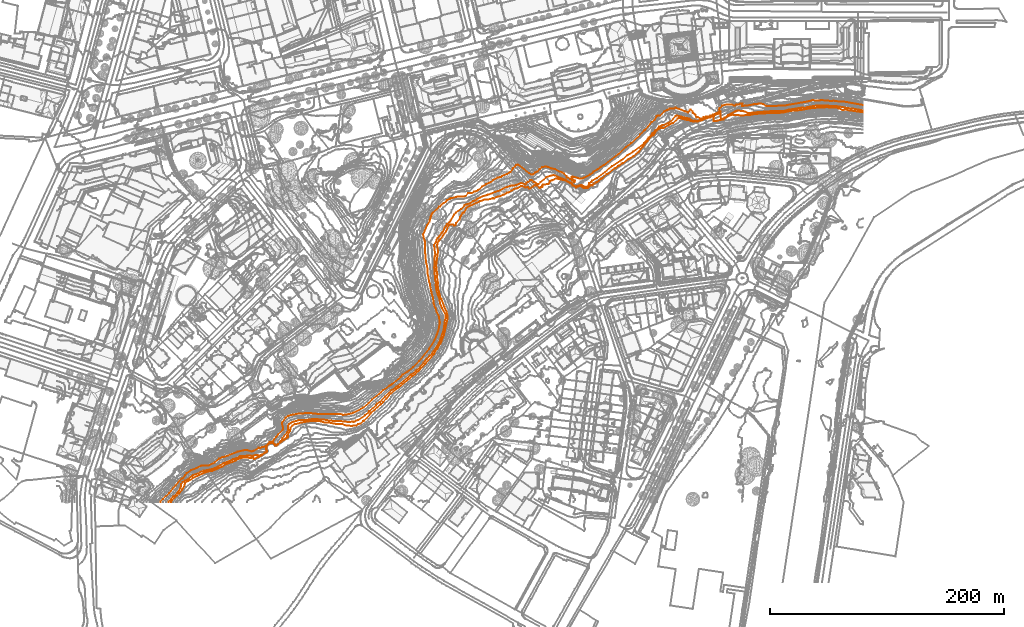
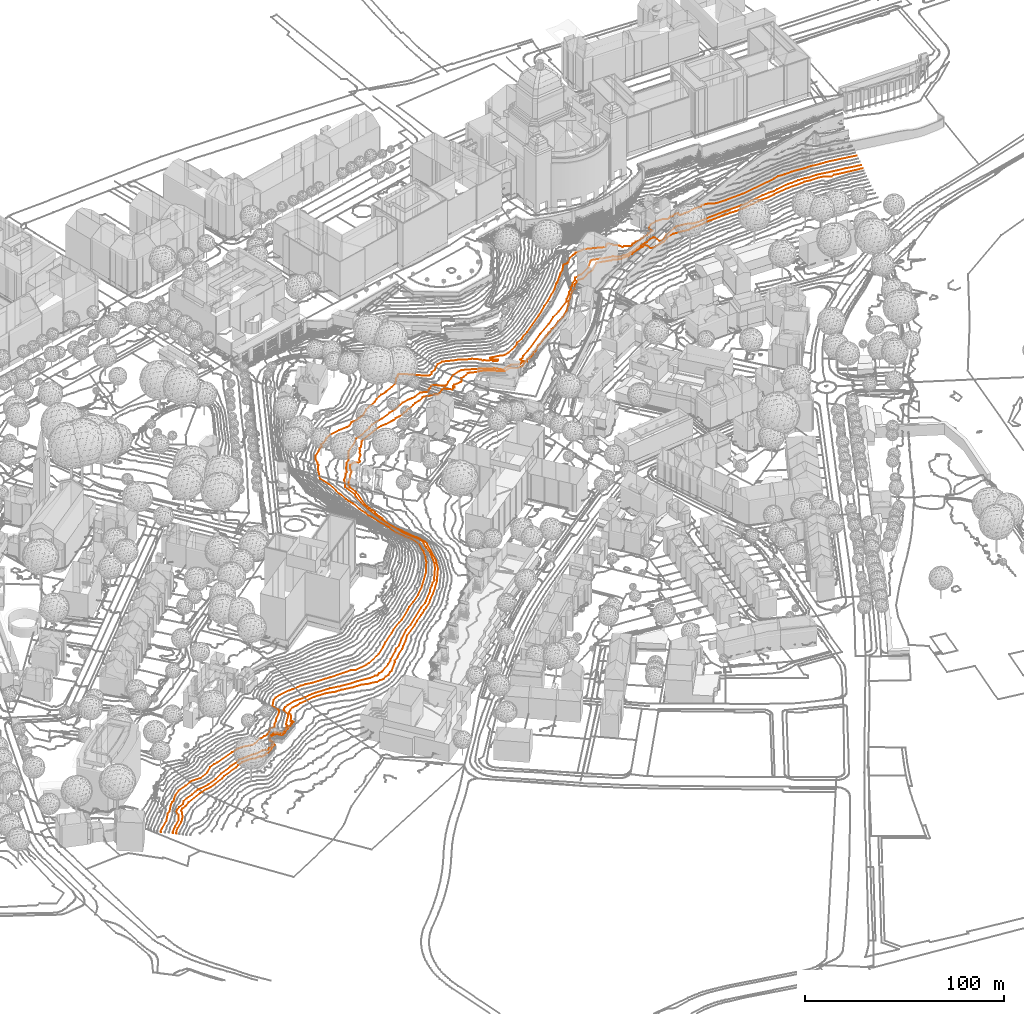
# Not in any storey, part 149 of 477: 3 geographic elements.
"""IFC4 model written with IfcOpenShell, lengths in metres."""

from ifc_helpers import new_model, entity, si_unit, frame, origin_with_axes, place, context, subcontext, project, spatial, element, save


model = new_model("IFC4")

# Units and contexts
model_context = context("Model", 3, precision=1e-05, world=origin_with_axes())
body_context = subcontext(model_context, "Body", "Model", "MODEL_VIEW")
ifc_project = project(units=[si_unit("AREAUNIT", "SQUARE_METRE"), si_unit("LENGTHUNIT", "METRE")], contexts=[model_context])

# Sites
site_1_placement = place(None, origin_with_axes())
site_1 = spatial("IfcSite", under=ifc_project, at=site_1_placement, Name="Topoexport Site")
site_2_placement = place(site_1_placement, origin_with_axes())
site_2 = spatial("IfcSite", under=site_1, at=site_2_placement, Name="TPX_CONTOUR_LINES")

# Geographic elements
geographic_element_1_placement = place(site_2_placement, frame((96.6989992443, -1.3292839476, 515.0), z_axis=(0.0, 0.0, 1.0), x_axis=(1.0, 0.0, 0.0)))
element("IfcGeographicElement", 1, at=geographic_element_1_placement, inside=site_2, Name="Contour Line 515.0 m", PredefinedType="NOTDEFINED", context=body_context, shape_type="GeometricCurveSet", body=[
    entity("IfcGeometricCurveSet", [entity("IfcIndexedPolyCurve", entity("IfcCartesianPointList3D", [[591.4787327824, 332.9415138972, 0.0], [577.9787327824, 334.768607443, 0.0], [575.9787327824, 335.3374003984, 0.0], [573.9787327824, 334.6984909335, 0.0], [570.9787327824, 336.3086014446, 0.0], [567.9787327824, 336.9974543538, 0.0], [562.9787327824, 337.0015273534, 0.0], [559.9787327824, 337.426889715, 0.0], [557.9787327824, 337.0893248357, 0.0], [548.9787327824, 336.7439199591, 0.0], [540.9787327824, 335.5189300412, 0.0], [537.9787327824, 334.7450601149, 0.0], [531.9787327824, 334.541755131, 0.0], [521.9787327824, 332.6477461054, 0.0], [516.9787327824, 332.26888015, 0.0], [513.9787327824, 332.4925011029, 0.0], [499.9787327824, 331.5959531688, 0.0], [494.9787327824, 330.8009591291, 0.0], [490.9787327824, 330.5956361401, 0.0], [487.9787327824, 330.0144763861, 0.0], [483.9787327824, 330.6640897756, 0.0], [479.9787327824, 330.8440860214, 0.0], [477.9787327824, 330.5143639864, 0.0], [475.9787327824, 329.7093643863, 0.0], [471.9787327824, 326.9774697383, 0.0], [466.9787327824, 325.8930828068, 0.0], [465.9787327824, 325.3099361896, 0.0], [463.6398315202, 325.5, 0.0], [463.3678236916, 328.5, 0.0], [462.0561360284, 329.5, 0.0], [460.9787327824, 328.6560026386, 0.0], [458.7236513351, 328.5, 0.0], [457.9787327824, 327.8515700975, 0.0], [456.1708539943, 327.5, 0.0], [452.9787327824, 325.9277697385, 0.0], [451.9787327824, 325.9614154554, 0.0], [449.9787327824, 325.1366212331, 0.0], [447.9787327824, 325.3383382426, 0.0], [445.9787327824, 324.9123844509, 0.0], [444.9787327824, 325.3430479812, 0.0], [443.9787327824, 325.3352652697, 0.0], [442.9787327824, 326.181233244, 0.0], [441.9787327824, 326.433919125, 0.0], [440.9787327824, 326.3007536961, 0.0], [433.9787327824, 328.0890675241, 0.0], [432.9787327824, 327.6170743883, 0.0], [428.9787327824, 323.8275583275, 0.0], [425.7405420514, 322.5, 0.0], [420.9787327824, 319.5451778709, 0.0], [419.9787327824, 319.3086174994, 0.0], [418.9787327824, 319.7831848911, 0.0], [416.9787327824, 319.2932485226, 0.0], [416.578034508, 318.5, 0.0], [414.9787327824, 317.5531714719, 0.0], [414.0146504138, 316.5, 0.0], [412.3924279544, 313.5, 0.0], [410.9787327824, 312.9702900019, 0.0], [408.3742339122, 310.5, 0.0], [407.0936332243, 308.5, 0.0], [404.4269508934, 305.5, 0.0], [403.1779585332, 303.5, 0.0], [401.3153707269, 301.5, 0.0], [399.980817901, 299.5, 0.0], [398.8302223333, 298.5, 0.0], [395.0201782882, 295.5, 0.0], [390.9787327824, 293.0302076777, 0.0], [386.1551833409, 289.5, 0.0], [384.9787327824, 289.0106936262, 0.0], [382.9787327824, 287.3566530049, 0.0], [381.9787327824, 287.0233266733, 0.0], [379.9787327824, 285.3350121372, 0.0], [378.9787327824, 285.0066216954, 0.0], [372.9787327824, 280.3321134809, 0.0], [371.9787327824, 280.0073905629, 0.0], [367.9787327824, 276.2127376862, 0.0], [366.9787327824, 276.0185750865, 0.0], [365.5607562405, 274.5, 0.0], [363.9787327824, 273.3696460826, 0.0], [362.9787327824, 273.0440775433, 0.0], [361.9787327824, 272.2404329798, 0.0], [360.9787327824, 272.05513937, 0.0], [359.9787327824, 270.55598982, 0.0], [358.9787327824, 270.8315259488, 0.0], [355.9787327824, 268.1500470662, 0.0], [352.9787327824, 268.1558324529, 0.0], [351.8814938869, 268.5, 0.0], [349.9787327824, 269.7799091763, 0.0], [348.9787327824, 269.8760092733, 0.0], [345.9787327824, 268.8704053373, 0.0], [343.2481027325, 270.5, 0.0], [340.9787327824, 272.409914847, 0.0], [336.9787327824, 274.6302069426, 0.0], [330.9787327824, 275.9534248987, 0.0], [329.9787327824, 276.5341997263, 0.0], [328.9787327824, 276.5645847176, 0.0], [325.9787327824, 274.9265301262, 0.0], [323.9787327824, 274.4248633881, 0.0], [322.9787327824, 272.1540905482, 0.0], [321.9787327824, 271.5952801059, 0.0], [317.9787327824, 271.2481910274, 0.0], [317.0041804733, 270.5, 0.0], [317.2738759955, 269.5, 0.0], [316.9787327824, 269.0815185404, 0.0], [315.9787327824, 269.006875, 0.0], [315.8301163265, 268.5, 0.0], [314.9787327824, 268.2312897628, 0.0], [312.1897728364, 270.5, 0.0], [311.9787327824, 270.9675615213, 0.0], [310.435405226, 270.5, 0.0], [309.4242960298, 269.5, 0.0], [307.9787327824, 268.7887853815, 0.0], [306.9787327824, 267.8933014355, 0.0], [305.9787327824, 267.8881526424, 0.0], [304.9787327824, 269.0180423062, 0.0], [302.9787327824, 268.8419573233, 0.0], [299.9787327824, 269.8174927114, 0.0], [298.9787327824, 269.8747095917, 0.0], [295.9787327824, 268.0885558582, 0.0], [292.9787327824, 267.3068410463, 0.0], [290.9787327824, 265.9906444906, 0.0], [287.9787327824, 264.4594567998, 0.0], [286.9787327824, 264.2634138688, 0.0], [285.9787327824, 263.3903688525, 0.0], [283.9787327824, 262.5256104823, 0.0], [279.9787327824, 260.9929315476, 0.0], [277.9787327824, 260.6968054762, 0.0], [275.9787327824, 259.4662179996, 0.0], [274.9787327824, 259.4970538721, 0.0], [270.9787327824, 258.5055141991, 0.0], [267.9787327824, 258.3765251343, 0.0], [263.9787327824, 257.0467678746, 0.0], [254.2360763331, 252.5, 0.0], [252.7204894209, 251.5, 0.0], [250.2838304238, 247.5, 0.0], [248.9787327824, 246.9739185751, 0.0], [247.9787327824, 244.7557138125, 0.0], [247.0843479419, 243.5, 0.0], [246.3926967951, 241.5, 0.0], [243.6790531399, 238.5, 0.0], [243.2462935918, 236.5, 0.0], [241.9787327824, 236.1179908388, 0.0], [240.9787327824, 236.9627489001, 0.0], [239.9787327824, 237.2099398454, 0.0], [238.9787327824, 237.1253778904, 0.0], [237.3853758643, 236.5, 0.0], [236.240193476, 234.5, 0.0], [234.9787327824, 230.957771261, 0.0], [232.7803550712, 228.5, 0.0], [231.9787327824, 226.8930578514, 0.0], [228.9426995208, 223.5, 0.0], [227.9149597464, 221.5, 0.0], [227.8610381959, 220.5, 0.0], [227.3735431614, 219.5, 0.0], [228.2337026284, 214.5, 0.0], [226.5601961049, 202.5, 0.0], [227.1274477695, 196.5, 0.0], [227.574815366, 194.5, 0.0], [227.2461397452, 192.5, 0.0], [228.0962233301, 187.5, 0.0], [227.8745221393, 185.5, 0.0], [228.1896179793, 182.5, 0.0], [230.0600606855, 175.5, 0.0], [231.1181156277, 173.5, 0.0], [233.5766916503, 166.5, 0.0], [234.7614718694, 164.5, 0.0], [235.5393994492, 162.5, 0.0], [236.351445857, 159.5, 0.0], [236.4416786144, 157.5, 0.0], [233.1138928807, 142.5, 0.0], [230.2884406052, 135.5, 0.0], [228.1491487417, 132.5, 0.0], [227.128009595, 130.5, 0.0], [226.2158695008, 129.5, 0.0], [224.6248348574, 126.5, 0.0], [216.9787327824, 117.7048916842, 0.0], [212.9787327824, 113.7273288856, 0.0], [211.9787327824, 112.2713966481, 0.0], [207.9787327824, 108.8225806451, 0.0], [205.9787327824, 107.4717227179, 0.0], [203.9787327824, 105.4285146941, 0.0], [202.4207185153, 104.5, 0.0], [197.9787327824, 100.8999517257, 0.0], [194.9787327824, 98.1790500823, 0.0], [187.3909269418, 92.5, 0.0], [184.1950471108, 88.5, 0.0], [181.0927189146, 85.5, 0.0], [179.4439143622, 83.5, 0.0], [175.9787327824, 80.8668493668, 0.0], [173.827594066, 78.5, 0.0], [171.057542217, 76.5, 0.0], [170.5648041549, 75.5, 0.0], [165.1156237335, 69.5, 0.0], [163.9787327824, 69.0097613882, 0.0], [161.9787327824, 67.1980920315, 0.0], [159.9787327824, 66.5001802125, 0.0], [157.9787327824, 65.3171763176, 0.0], [155.9787327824, 65.2824494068, 0.0], [153.9787327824, 64.7764993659, 0.0], [150.9787327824, 65.4226441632, 0.0], [149.9787327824, 65.2409424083, 0.0], [145.9787327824, 66.5500281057, 0.0], [140.9787327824, 66.7250000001, 0.0], [134.9787327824, 67.7196229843, 0.0], [130.9787327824, 67.8510101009, 0.0], [126.9787327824, 68.9987779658, 0.0], [119.9787327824, 69.210696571, 0.0], [110.9787327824, 67.8469264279, 0.0], [108.9787327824, 67.0723538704, 0.0], [105.9787327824, 66.6234272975, 0.0], [103.9787327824, 65.4907087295, 0.0], [102.0241663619, 63.5, 0.0], [101.9054103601, 61.5, 0.0], [101.5507685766, 60.5, 0.0], [98.9269758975, 56.5, 0.0], [99.9787327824, 56.1478320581, 0.0], [99.9787327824, 55.3918511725, 0.0], [98.9787327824, 55.1422390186, 0.0], [98.6242159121, 54.5, 0.0], [97.9787327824, 54.2830196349, 0.0], [96.9787327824, 53.2917797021, 0.0], [95.9787327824, 53.079497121, 0.0], [94.3076632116, 51.5, 0.0], [92.9787327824, 50.918068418, 0.0], [91.5970878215, 49.5, 0.0], [89.9787327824, 48.4076350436, 0.0], [88.9787327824, 48.3087274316, 0.0], [88.1408032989, 49.5, 0.0], [86.9787327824, 50.3721314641, 0.0], [85.9787327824, 50.5013374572, 0.0], [83.0921492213, 49.5, 0.0], [81.6217132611, 47.5, 0.0], [81.4332417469, 46.5, 0.0], [81.8391734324, 43.5, 0.0], [81.5146887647, 42.5, 0.0], [79.9787327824, 41.8691406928, 0.0], [77.9787327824, 40.1878247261, 0.0], [74.9787327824, 38.3781739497, 0.0], [73.9787327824, 38.2408117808, 0.0], [72.9787327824, 37.3456520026, 0.0], [71.9787327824, 37.2919526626, 0.0], [70.9787327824, 36.8542116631, 0.0], [69.9787327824, 37.8351158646, 0.0], [66.9787327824, 37.397039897, 0.0], [64.9787327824, 38.0475242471, 0.0], [59.9787327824, 37.6719411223, 0.0], [56.7890639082, 36.5, 0.0], [54.9787327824, 35.2592780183, 0.0], [45.9787327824, 31.788113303, 0.0], [43.9787327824, 30.3911733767, 0.0], [37.9787327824, 27.7427430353, 0.0], [34.9787327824, 26.5779358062, 0.0], [31.9787327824, 26.1078431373, 0.0], [27.9787327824, 24.7939994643, 0.0], [18.9787327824, 20.6665490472, 0.0], [15.9787327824, 18.5155138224, 0.0], [13.3235484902, 17.5, 0.0], [11.9787327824, 16.1204188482, 0.0], [11.6830465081, 14.5, 0.0], [9.4669217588, 10.5, 0.0], [6.9787327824, 7.362727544, 0.0], [2.9787327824, 3.9320799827, 0.0], [0.9787327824, 1.8258261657, 0.0], [0.0, 0.5, 0.0], [0.0, 0.0, 0.0]]))]),
])
geographic_element_2_placement = place(site_2_placement, frame((94.6451804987, -1.3292839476, 516.0), z_axis=(0.0, 0.0, 1.0), x_axis=(1.0, 0.0, 0.0)))
element("IfcGeographicElement", 2, at=geographic_element_2_placement, inside=site_2, Name="Contour Line 516.0 m", PredefinedType="NOTDEFINED", context=body_context, shape_type="GeometricCurveSet", body=[
    entity("IfcGeometricCurveSet", [entity("IfcIndexedPolyCurve", entity("IfcCartesianPointList3D", [[593.532551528, 334.4569213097, 0.0], [585.032551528, 336.0992237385, 0.0], [581.032551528, 336.4362391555, 0.0], [570.032551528, 338.3774283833, 0.0], [565.032551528, 338.3635471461, 0.0], [563.032551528, 338.753660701, 0.0], [559.032551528, 338.8943821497, 0.0], [555.032551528, 338.5575432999, 0.0], [553.032551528, 338.6659128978, 0.0], [546.032551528, 337.4804011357, 0.0], [544.032551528, 336.7966074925, 0.0], [541.032551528, 336.837419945, 0.0], [537.032551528, 336.3372235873, 0.0], [530.032551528, 335.2063816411, 0.0], [526.032551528, 334.2492584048, 0.0], [513.032551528, 333.8089837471, 0.0], [499.032551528, 332.7112004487, 0.0], [497.032551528, 332.234372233, 0.0], [494.4856066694, 332.5, 0.0], [492.032551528, 333.7736842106, 0.0], [486.032551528, 334.5032056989, 0.0], [485.032551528, 333.830392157, 0.0], [484.032551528, 333.6964348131, 0.0], [478.032551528, 330.7809695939, 0.0], [475.032551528, 328.3691002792, 0.0], [473.032551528, 327.3569679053, 0.0], [471.9647476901, 327.5, 0.0], [471.5054407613, 331.5, 0.0], [471.032551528, 331.8666666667, 0.0], [468.1002814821, 331.5, 0.0], [466.032551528, 329.9208153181, 0.0], [465.032551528, 330.0118642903, 0.0], [463.2310366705, 329.5, 0.0], [462.032551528, 328.8295881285, 0.0], [461.032551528, 328.7882805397, 0.0], [458.032551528, 327.7130395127, 0.0], [455.032551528, 326.2169025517, 0.0], [454.032551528, 326.2557899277, 0.0], [452.032551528, 325.475490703, 0.0], [450.032551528, 325.8483368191, 0.0], [448.032551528, 325.6429913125, 0.0], [446.3350921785, 326.5, 0.0], [445.032551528, 327.6454870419, 0.0], [443.032551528, 327.9308691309, 0.0], [434.032551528, 330.2673211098, 0.0], [433.032551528, 329.6540574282, 0.0], [429.032551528, 325.2024719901, 0.0], [423.032551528, 321.874878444, 0.0], [422.032551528, 321.8647367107, 0.0], [419.032551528, 320.8609538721, 0.0], [418.032551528, 319.2919065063, 0.0], [415.5811084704, 317.5, 0.0], [414.032551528, 315.381904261, 0.0], [413.032551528, 314.9959384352, 0.0], [412.4450647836, 313.5, 0.0], [410.1430175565, 311.5, 0.0], [409.032551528, 309.865699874, 0.0], [406.032551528, 306.8477698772, 0.0], [405.032551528, 305.1894117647, 0.0], [397.032551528, 299.3456675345, 0.0], [392.2100176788, 296.5, 0.0], [387.032551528, 292.2167710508, 0.0], [379.032551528, 286.9387822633, 0.0], [366.032551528, 276.9773089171, 0.0], [361.9274706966, 274.5, 0.0], [361.032551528, 273.2020576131, 0.0], [359.2489898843, 272.5, 0.0], [359.1460544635, 271.5, 0.0], [360.0438344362, 270.5, 0.0], [359.032551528, 270.4463567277, 0.0], [358.032551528, 269.4362806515, 0.0], [357.032551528, 269.0695097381, 0.0], [355.2987930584, 269.5, 0.0], [353.032551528, 270.7884666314, 0.0], [352.032551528, 270.7872731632, 0.0], [349.032551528, 270.0180862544, 0.0], [348.032551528, 269.3860146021, 0.0], [346.114096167, 270.5, 0.0], [343.8843900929, 272.5, 0.0], [341.032551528, 273.8670099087, 0.0], [339.032551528, 275.1770694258, 0.0], [330.032551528, 278.9399057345, 0.0], [329.032551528, 279.2129840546, 0.0], [327.032551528, 279.0539550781, 0.0], [323.032551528, 277.6043573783, 0.0], [317.7937522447, 273.5, 0.0], [315.9017152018, 271.5, 0.0], [315.032551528, 271.3734876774, 0.0], [313.032551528, 273.0373060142, 0.0], [312.032551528, 273.50928743, 0.0], [311.032551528, 274.7193061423, 0.0], [309.032551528, 275.1199845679, 0.0], [307.032551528, 273.367980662, 0.0], [306.032551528, 272.8441584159, 0.0], [305.032551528, 271.1894557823, 0.0], [301.032551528, 272.6068090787, 0.0], [297.032551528, 270.8943943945, 0.0], [295.032551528, 270.4402785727, 0.0], [293.032551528, 270.3847392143, 0.0], [289.032551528, 269.239985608, 0.0], [286.032551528, 268.0060613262, 0.0], [283.032551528, 266.2208680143, 0.0], [279.032551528, 264.9960505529, 0.0], [273.032551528, 262.5505136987, 0.0], [269.032551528, 261.4628429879, 0.0], [266.032551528, 260.1951647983, 0.0], [264.032551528, 259.1378971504, 0.0], [263.032551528, 258.2484960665, 0.0], [260.032551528, 256.9574132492, 0.0], [257.032551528, 255.1494976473, 0.0], [253.032551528, 253.9119703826, 0.0], [249.8083402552, 250.5, 0.0], [245.6984383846, 247.5, 0.0], [244.032551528, 245.7920592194, 0.0], [241.0235515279, 240.5, 0.0], [240.032551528, 239.2016431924, 0.0], [238.032551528, 237.6705763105, 0.0], [237.032551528, 235.822265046, 0.0], [235.8577060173, 234.5, 0.0], [234.1574137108, 230.5, 0.0], [233.032551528, 229.7367149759, 0.0], [231.032551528, 226.8030911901, 0.0], [229.6042089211, 225.5, 0.0], [229.032551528, 223.754368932, 0.0], [226.7853605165, 219.5, 0.0], [227.9162324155, 211.5, 0.0], [227.3381851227, 209.5, 0.0], [227.0067060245, 200.5, 0.0], [227.6852490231, 190.5, 0.0], [228.3877946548, 187.5, 0.0], [228.26908699, 185.5, 0.0], [228.6133776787, 182.5, 0.0], [229.8432803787, 177.5, 0.0], [231.1245843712, 174.5, 0.0], [232.1256594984, 169.5, 0.0], [233.7109569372, 165.5, 0.0], [236.5182450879, 160.5, 0.0], [236.6330993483, 157.5, 0.0], [235.7104148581, 153.5, 0.0], [235.5379130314, 150.5, 0.0], [234.9895117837, 147.5, 0.0], [232.5055993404, 139.5, 0.0], [230.546630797, 135.5, 0.0], [225.4142825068, 127.5, 0.0], [225.032551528, 126.4053833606, 0.0], [223.032551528, 124.9153575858, 0.0], [221.032551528, 122.4384351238, 0.0], [219.8560078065, 121.5, 0.0], [218.032551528, 119.0159723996, 0.0], [212.032551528, 112.5865623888, 0.0], [210.8671685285, 111.5, 0.0], [207.032551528, 108.8962002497, 0.0], [194.8663532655, 98.5, 0.0], [190.5146190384, 95.5, 0.0], [185.032551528, 90.2463204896, 0.0], [180.6546188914, 85.5, 0.0], [178.032551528, 83.9287540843, 0.0], [177.032551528, 82.6434184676, 0.0], [171.336374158, 77.5, 0.0], [170.6368362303, 76.5, 0.0], [168.032551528, 74.3135593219, 0.0], [162.032551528, 70.0682568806, 0.0], [160.032551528, 69.5642385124, 0.0], [159.032551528, 68.746776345, 0.0], [158.1090906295, 68.5, 0.0], [157.032551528, 68.6965044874, 0.0], [154.032551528, 68.2766287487, 0.0], [147.032551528, 69.043556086, 0.0], [143.032551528, 69.0018067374, 0.0], [137.032551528, 69.556911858, 0.0], [132.032551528, 70.5159030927, 0.0], [124.032551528, 70.772258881, 0.0], [120.032551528, 70.5704535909, 0.0], [117.032551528, 69.9868844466, 0.0], [111.032551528, 69.8096196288, 0.0], [106.032551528, 68.4485698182, 0.0], [104.032551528, 67.4832635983, 0.0], [102.8659639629, 66.5, 0.0], [102.2176255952, 65.5, 0.0], [101.9589674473, 64.5, 0.0], [102.2986415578, 61.5, 0.0], [101.108665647, 59.5, 0.0], [97.1939625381, 54.5, 0.0], [96.9106145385, 53.5, 0.0], [97.0383400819, 52.5, 0.0], [96.032551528, 51.9337219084, 0.0], [95.7909205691, 51.5, 0.0], [95.032551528, 51.2621327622, 0.0], [93.032551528, 49.2389182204, 0.0], [92.032551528, 48.8471668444, 0.0], [91.032551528, 48.6740542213, 0.0], [90.478072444, 49.5, 0.0], [89.032551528, 50.6891315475, 0.0], [88.032551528, 50.7295968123, 0.0], [85.032551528, 49.6506103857, 0.0], [83.4790717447, 47.5, 0.0], [83.2434901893, 46.5, 0.0], [83.5615134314, 43.5, 0.0], [83.032551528, 42.3370989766, 0.0], [82.032551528, 42.1537926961, 0.0], [80.032551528, 40.444225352, 0.0], [79.032551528, 40.2250671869, 0.0], [78.032551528, 39.4516278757, 0.0], [77.032551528, 39.4539310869, 0.0], [76.032551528, 40.0559502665, 0.0], [75.032551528, 40.2514186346, 0.0], [71.032551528, 39.319356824, 0.0], [69.032551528, 39.6822125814, 0.0], [61.032551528, 39.1103038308, 0.0], [58.032551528, 37.4810056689, 0.0], [55.032551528, 36.5515725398, 0.0], [54.032551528, 35.9299255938, 0.0], [47.032551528, 33.1871533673, 0.0], [42.032551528, 30.1450362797, 0.0], [37.032551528, 28.0930811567, 0.0], [30.032551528, 26.7324897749, 0.0], [28.032551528, 26.0225788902, 0.0], [25.032551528, 24.3498176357, 0.0], [21.032551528, 23.0029326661, 0.0], [18.5351404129, 21.5, 0.0], [17.0390547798, 19.5, 0.0], [14.032551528, 18.1913494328, 0.0], [12.032551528, 16.8471717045, 0.0], [10.8019883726, 15.5, 0.0], [10.3322124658, 12.5, 0.0], [8.1551121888, 8.5, 0.0], [3.7222490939, 4.5, 0.0], [0.0, 0.5, 0.0], [0.0, 0.0, 0.0]]))]),
])
geographic_element_3_placement = place(site_2_placement, frame((87.5901699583, -1.3292839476, 519.0), z_axis=(0.0, 0.0, 1.0), x_axis=(1.0, 0.0, 0.0)))
element("IfcGeographicElement", 3, at=geographic_element_3_placement, inside=site_2, Name="Contour Line 519.0 m", PredefinedType="NOTDEFINED", context=body_context, shape_type="GeometricCurveSet", body=[
    entity("IfcGeometricCurveSet", [entity("IfcIndexedPolyCurve", entity("IfcCartesianPointList3D", [[600.5875620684, 339.2074202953, 0.0], [584.0875620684, 342.0237920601, 0.0], [581.0875620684, 342.0113628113, 0.0], [575.0875620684, 342.8151470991, 0.0], [572.0875620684, 342.699063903, 0.0], [565.0875620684, 343.3409046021, 0.0], [561.0875620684, 343.0420935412, 0.0], [557.0875620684, 343.3370058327, 0.0], [554.0875620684, 342.4506995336, 0.0], [534.0875620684, 338.9306819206, 0.0], [524.0875620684, 338.3485219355, 0.0], [518.0875620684, 338.3521598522, 0.0], [517.0875620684, 338.6370819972, 0.0], [515.0875620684, 339.9630797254, 0.0], [512.0875620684, 340.5249433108, 0.0], [511.0875620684, 340.544106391, 0.0], [510.0875620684, 339.8372446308, 0.0], [507.0875620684, 339.8088841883, 0.0], [501.0875620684, 338.6388933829, 0.0], [500.0875620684, 338.843240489, 0.0], [498.0875620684, 338.350395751, 0.0], [497.0656424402, 338.5, 0.0], [496.987817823, 339.5, 0.0], [497.2767290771, 340.5, 0.0], [495.6607378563, 340.5, 0.0], [494.0875620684, 339.7530830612, 0.0], [492.0875620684, 339.6943368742, 0.0], [491.0875620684, 338.8436684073, 0.0], [490.0875620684, 338.7000920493, 0.0], [488.0875620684, 339.7944598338, 0.0], [484.0875620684, 339.7655750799, 0.0], [480.0875620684, 338.6523671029, 0.0], [478.0002579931, 336.5, 0.0], [477.5976003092, 335.5, 0.0], [478.4752809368, 333.5, 0.0], [477.0875620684, 333.180768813, 0.0], [476.0875620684, 332.3836889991, 0.0], [475.0875620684, 332.2585928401, 0.0], [474.0875620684, 331.3414881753, 0.0], [472.0875620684, 331.2034814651, 0.0], [471.0875620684, 330.3412232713, 0.0], [470.0875620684, 330.2841308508, 0.0], [468.7301994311, 329.5, 0.0], [466.0875620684, 329.2952922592, 0.0], [465.0875620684, 328.4360969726, 0.0], [464.4557994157, 328.5, 0.0], [464.0875620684, 328.8991801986, 0.0], [463.0875620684, 327.7248195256, 0.0], [462.0875620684, 327.4824925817, 0.0], [461.4305464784, 327.5, 0.0], [459.0875620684, 328.9030327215, 0.0], [458.0875620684, 328.4097605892, 0.0], [457.3236951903, 330.5, 0.0], [456.4625620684, 331.5, 0.0], [455.0154227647, 332.5, 0.0], [454.7004652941, 333.5, 0.0], [453.0875620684, 335.1099337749, 0.0], [452.2688954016, 334.5, 0.0], [451.0875620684, 332.9665801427, 0.0], [448.705060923, 333.5, 0.0], [448.0875620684, 333.9400914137, 0.0], [440.0875620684, 336.8386091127, 0.0], [439.0875620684, 336.3166956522, 0.0], [435.0875620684, 336.1362698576, 0.0], [434.0875620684, 335.2112871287, 0.0], [433.0875620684, 335.0167494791, 0.0], [430.207397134, 333.5, 0.0], [427.0875620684, 330.1290630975, 0.0], [425.0875620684, 330.0970744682, 0.0], [424.0875620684, 329.6362229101, 0.0], [422.1465229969, 326.5, 0.0], [419.6671180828, 324.5, 0.0], [414.0875620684, 318.0100726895, 0.0], [413.0875620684, 317.3207437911, 0.0], [410.0875620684, 313.9061182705, 0.0], [402.0875620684, 306.5471568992, 0.0], [398.0875620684, 303.4189479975, 0.0], [391.3368380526, 297.5, 0.0], [379.0875620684, 287.9686178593, 0.0], [376.0875620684, 286.1922925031, 0.0], [374.0875620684, 284.4527073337, 0.0], [370.1792567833, 282.5, 0.0], [369.0875620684, 281.1277499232, 0.0], [367.0875620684, 279.7742774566, 0.0], [362.0875620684, 277.106456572, 0.0], [360.0875620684, 276.3475832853, 0.0], [358.0875620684, 276.3310617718, 0.0], [357.0875620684, 276.7927340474, 0.0], [352.0875620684, 277.9046712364, 0.0], [351.4912283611, 277.5, 0.0], [352.3763448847, 276.5, 0.0], [352.3050761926, 275.5, 0.0], [354.5215061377, 274.5, 0.0], [353.7938763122, 273.5, 0.0], [353.0875620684, 273.4090737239, 0.0], [351.6406688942, 274.5, 0.0], [351.8513657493, 275.5, 0.0], [350.0875620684, 276.041738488, 0.0], [348.0875620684, 277.3333333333, 0.0], [347.0875620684, 277.4211025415, 0.0], [346.914160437, 278.5, 0.0], [345.0875620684, 280.4957366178, 0.0], [343.4562930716, 281.5, 0.0], [341.0875620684, 282.2640604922, 0.0], [337.0875620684, 284.3579656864, 0.0], [334.0875620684, 285.0672649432, 0.0], [331.0875620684, 286.3101029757, 0.0], [329.0875620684, 286.7424900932, 0.0], [326.0875620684, 285.9791380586, 0.0], [324.0040677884, 284.5, 0.0], [322.3991767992, 282.5, 0.0], [320.0875620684, 281.6716738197, 0.0], [319.0875620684, 280.2649269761, 0.0], [318.0875620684, 279.6366290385, 0.0], [317.0875620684, 279.7347908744, 0.0], [315.0875620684, 280.8628427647, 0.0], [306.0875620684, 287.8337955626, 0.0], [305.0875620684, 288.3186471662, 0.0], [304.0875620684, 288.060118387, 0.0], [303.0875620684, 286.772812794, 0.0], [301.4526699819, 285.5, 0.0], [301.0750620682, 284.5, 0.0], [299.0875620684, 282.0453416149, 0.0], [296.0875620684, 280.3479899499, 0.0], [292.0875620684, 278.6915770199, 0.0], [291.0875620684, 277.769717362, 0.0], [288.0875620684, 277.1122570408, 0.0], [284.0875620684, 275.0907995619, 0.0], [282.0875620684, 273.1774095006, 0.0], [278.0875620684, 271.5156500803, 0.0], [274.9873612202, 269.5, 0.0], [271.5618422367, 266.5, 0.0], [270.0875620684, 265.6022798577, 0.0], [268.0875620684, 265.0927734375, 0.0], [266.0875620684, 263.8769768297, 0.0], [263.0875620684, 263.8488372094, 0.0], [260.5799645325, 261.5, 0.0], [259.0875620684, 261.0297090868, 0.0], [254.0875620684, 260.8898356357, 0.0], [248.0875620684, 259.5215791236, 0.0], [247.0875620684, 259.0337750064, 0.0], [245.0875620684, 257.7756080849, 0.0], [244.0875620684, 256.6930963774, 0.0], [242.0875620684, 255.2565907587, 0.0], [240.0875620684, 254.2841094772, 0.0], [239.0875620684, 252.488153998, 0.0], [238.0875620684, 252.2882660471, 0.0], [236.0875620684, 250.0708455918, 0.0], [232.8950135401, 247.5, 0.0], [232.0875620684, 246.4590850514, 0.0], [231.815466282, 245.5, 0.0], [231.1160696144, 244.5, 0.0], [230.5140386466, 241.5, 0.0], [229.8904922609, 240.5, 0.0], [229.8287159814, 239.5, 0.0], [227.8874930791, 236.5, 0.0], [224.4884409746, 228.5, 0.0], [225.9532263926, 222.5, 0.0], [226.3731822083, 215.5, 0.0], [226.2635341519, 212.5, 0.0], [226.5528885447, 211.5, 0.0], [226.8878351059, 206.5, 0.0], [227.1326587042, 204.5, 0.0], [228.0396336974, 201.5, 0.0], [228.2910741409, 195.5, 0.0], [229.239349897, 191.5, 0.0], [229.5527969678, 188.5, 0.0], [230.2561420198, 186.5, 0.0], [231.5518057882, 179.5, 0.0], [233.0129417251, 174.5, 0.0], [233.7453693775, 168.5, 0.0], [235.2413811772, 165.5, 0.0], [236.0875620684, 162.8574444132, 0.0], [237.8058329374, 159.5, 0.0], [238.8385041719, 153.5, 0.0], [237.7492831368, 147.5, 0.0], [236.0861775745, 142.5, 0.0], [234.3159657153, 138.5, 0.0], [229.4193572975, 130.5, 0.0], [221.0903420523, 120.5, 0.0], [216.0875620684, 115.4507963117, 0.0], [211.1320624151, 111.5, 0.0], [207.0875620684, 108.7420791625, 0.0], [205.0875620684, 106.6303834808, 0.0], [198.0875620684, 100.734980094, 0.0], [195.928757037, 99.5, 0.0], [190.3202291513, 95.5, 0.0], [188.0875620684, 93.3550072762, 0.0], [181.0875620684, 87.7198937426, 0.0], [178.0875620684, 84.6844559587, 0.0], [173.0875620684, 80.5223621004, 0.0], [165.0875620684, 76.2968961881, 0.0], [163.0875620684, 75.4801400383, 0.0], [156.0875620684, 74.358490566, 0.0], [154.0875620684, 75.2715019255, 0.0], [142.0875620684, 75.0038633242, 0.0], [139.0875620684, 75.2890185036, 0.0], [132.0875620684, 75.3466062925, 0.0], [128.0875620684, 75.9854859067, 0.0], [125.0875620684, 76.0951926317, 0.0], [120.0875620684, 75.5086196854, 0.0], [118.0875620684, 75.5586533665, 0.0], [112.0875620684, 74.4471352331, 0.0], [109.0875620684, 73.5135511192, 0.0], [107.0875620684, 72.0309747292, 0.0], [104.0875620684, 67.8988929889, 0.0], [104.0703859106, 66.5, 0.0], [104.8590207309, 63.5, 0.0], [104.8443034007, 62.5, 0.0], [104.3296469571, 61.5, 0.0], [100.3477115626, 57.5, 0.0], [98.9247190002, 55.5, 0.0], [96.9282068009, 53.5, 0.0], [95.8782477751, 51.5, 0.0], [93.0875620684, 51.0823852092, 0.0], [89.0875620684, 47.2351147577, 0.0], [87.0875620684, 46.9044790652, 0.0], [85.0875620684, 46.1914991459, 0.0], [84.0875620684, 46.4369016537, 0.0], [80.0875620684, 43.7953439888, 0.0], [78.0875620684, 43.2217714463, 0.0], [74.0875620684, 44.1833129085, 0.0], [72.0875620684, 44.2542492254, 0.0], [70.0875620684, 44.016593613, 0.0], [66.0875620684, 42.8831682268, 0.0], [55.0875620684, 38.7189822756, 0.0], [53.0875620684, 38.3507612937, 0.0], [50.0875620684, 37.0601088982, 0.0], [46.0875620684, 33.5544539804, 0.0], [41.0875620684, 31.3031623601, 0.0], [35.0875620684, 31.1045585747, 0.0], [31.0875620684, 29.0458292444, 0.0], [26.0875620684, 27.1874397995, 0.0], [22.5693161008, 24.5, 0.0], [21.0875620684, 22.9829178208, 0.0], [19.0875620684, 20.2147567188, 0.0], [18.0875620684, 19.8986963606, 0.0], [16.4877268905, 18.5, 0.0], [13.0875620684, 13.9119018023, 0.0], [11.0875620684, 12.320340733, 0.0], [7.5525575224, 7.5, 0.0], [2.0875620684, 2.6434884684, 0.0], [0.0, 0.5, 0.0], [0.0, 0.0, 0.0]]))]),
])

save(model, "model.ifc")
